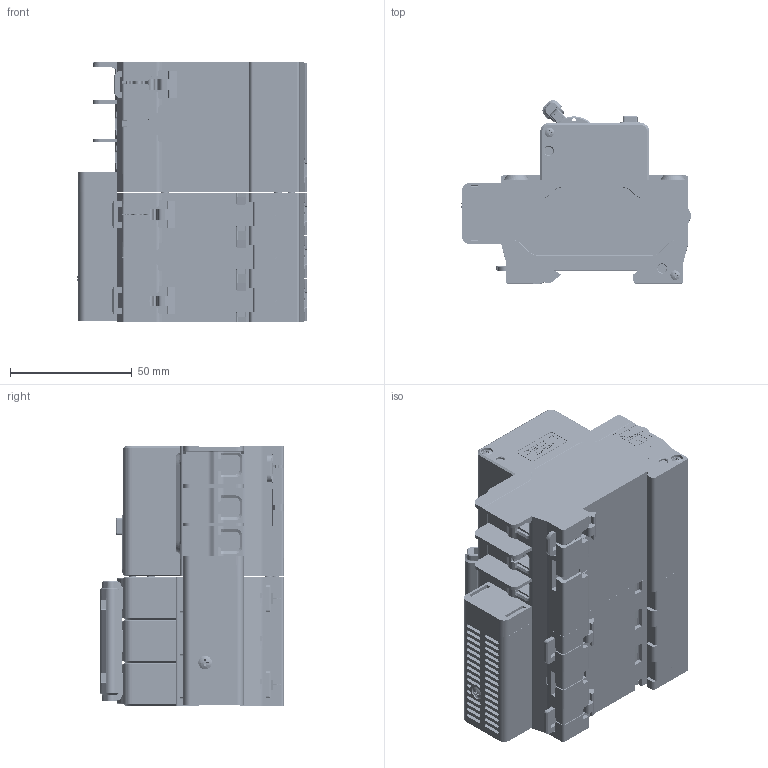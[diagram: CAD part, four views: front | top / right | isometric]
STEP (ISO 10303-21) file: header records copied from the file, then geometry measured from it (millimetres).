
FILE_DESCRIPTION((''),'2;1');
FILE_NAME('CDBHLE_3P_63_22560209_SW0001','2019-12-21T',('dong.huang'),(''),'PRO/ENGINEER BY PARAMETRIC TECHNOLOGY CORPORATION, 2015440','PRO/ENGINEER BY PARAMETRIC TECHNOLOGY CORPORATION, 2015440','');
FILE_SCHEMA(('CONFIG_CONTROL_DESIGN'));
Products named in the file (1): CDBHLE_3P_63_22560209_SW0001
Bounding box: 94.38 x 75.51 x 106.65 mm (x, y, z)
Volume: 360287.7 mm3; surface area: 137256.7 mm2
Topology: 4 solids, 10 shells, 12419 faces, 34808 edges, 22864 vertices
Faces by surface type: plane 8460, cylinder 2301, extrusion 987, cone 412, torus 127, sphere 77, bspline 55
Entity records: 405602 total; most frequent: CARTESIAN_POINT 86151, ORIENTED_EDGE 69452, DIRECTION 61259, EDGE_CURVE 34726, VECTOR 27213, LINE 26226, VERTEX_POINT 22864, AXIS2_PLACEMENT_3D 17023
